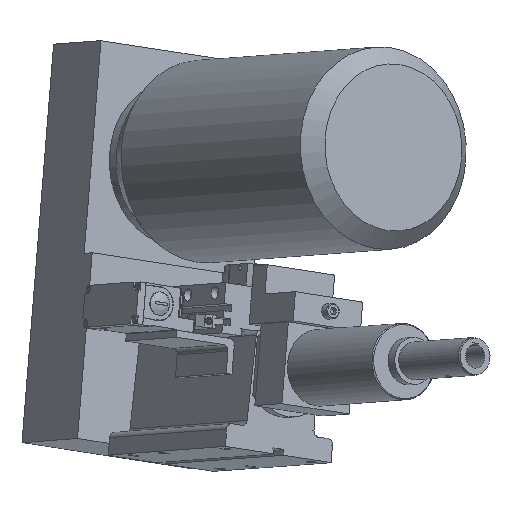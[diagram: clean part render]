
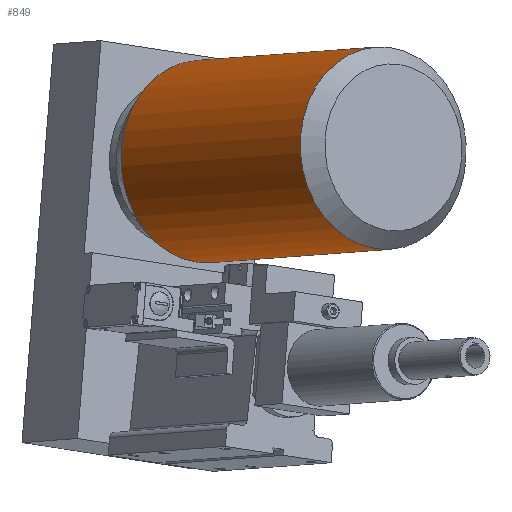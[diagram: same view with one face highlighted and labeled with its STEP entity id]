
A CAD part, front view. The second image highlights one B-rep face of the part: STEP entity #849.
In plain terms, the highlighted cylindrical face has radius 86 mm (diameter 172 mm), a full revolution.
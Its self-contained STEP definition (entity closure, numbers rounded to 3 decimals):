
#822=CARTESIAN_POINT('',(62.961,-47.484,297.076));
#823=DIRECTION('',(-0.574,0.818,-0.042));
#824=DIRECTION('',(-0.815,-0.566,0.125));
#825=AXIS2_PLACEMENT_3D('',#822,#823,#824);
#826=CYLINDRICAL_SURFACE('',#825,86.);
#827=CARTESIAN_POINT('',(-83.209,12.183,302.239));
#828=VERTEX_POINT('',#827);
#829=CARTESIAN_POINT('',(-13.127,60.846,291.448));
#830=DIRECTION('',(-0.574,0.818,-0.042));
#831=DIRECTION('',(-0.815,-0.566,0.125));
#832=AXIS2_PLACEMENT_3D('',#829,#830,#831);
#833=CIRCLE('',#832,86.);
#834=EDGE_CURVE('',#828,#828,#833,.T.);
#835=ORIENTED_EDGE('',*,*,#834,.F.);
#836=EDGE_LOOP('',(#835));
#837=FACE_OUTER_BOUND('',#836,.T.);
#838=CARTESIAN_POINT('',(68.967,-204.476,313.494));
#839=VERTEX_POINT('',#838);
#840=CARTESIAN_POINT('',(139.049,-155.813,302.703));
#841=DIRECTION('',(-0.574,0.818,-0.042));
#842=DIRECTION('',(-0.815,-0.566,0.125));
#843=AXIS2_PLACEMENT_3D('',#840,#841,#842);
#844=CIRCLE('',#843,86.);
#845=EDGE_CURVE('',#839,#839,#844,.T.);
#846=ORIENTED_EDGE('',*,*,#845,.T.);
#847=EDGE_LOOP('',(#846));
#848=FACE_BOUND('',#847,.T.);
#849=ADVANCED_FACE('',(#837,#848),#826,.T.);
